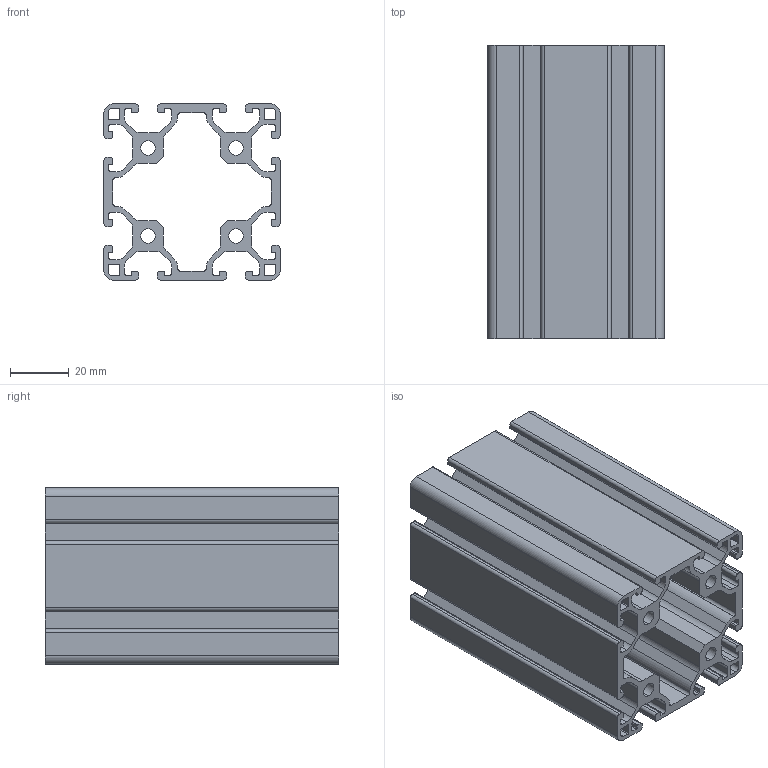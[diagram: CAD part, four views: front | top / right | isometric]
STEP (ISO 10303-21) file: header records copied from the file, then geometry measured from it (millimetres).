
FILE_DESCRIPTION (( 'STEP AP203' ), '1' );
FILE_NAME ('0106P6060L.STEP', '2024-02-27T14:19:19', ( 'Windows-Benutzer' ), ( '' ), 'SwSTEP 2.0', 'SolidWorks 2023', '' );
FILE_SCHEMA (( 'CONFIG_CONTROL_DESIGN' ));
Length unit declared in the file: millimetre
Products named in the file (1): 0106P6060L
Bounding box: 60 x 100 x 60 mm (x, y, z)
Volume: 97673.9 mm3; surface area: 85558.7 mm2
Topology: 1 solids, 1 shells, 330 faces, 984 edges, 656 vertices
Faces by surface type: plane 166, cylinder 164
Entity records: 11289 total; most frequent: DIRECTION 1974, CARTESIAN_POINT 1971, ORIENTED_EDGE 1968, EDGE_CURVE 984, AXIS2_PLACEMENT_3D 659, LINE 656, VECTOR 656, VERTEX_POINT 656
